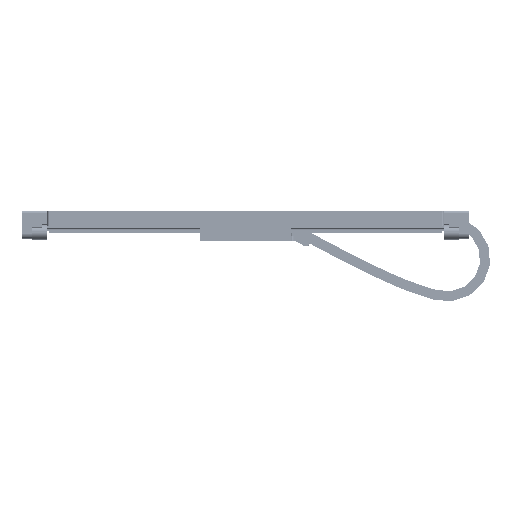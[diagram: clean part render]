
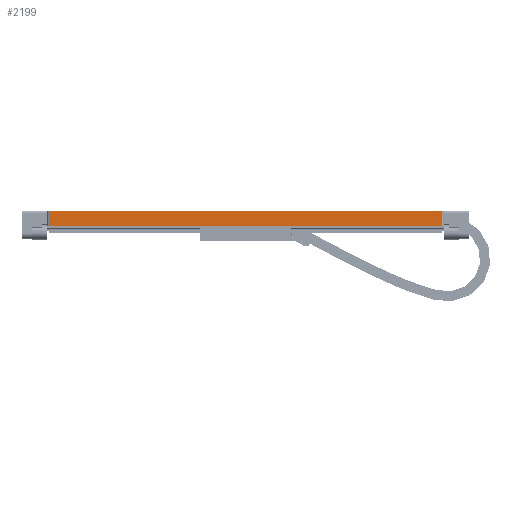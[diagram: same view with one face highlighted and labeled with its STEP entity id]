
A CAD part, left-side view. The second image highlights one B-rep face of the part: STEP entity #2199.
In plain terms, the highlighted planar face has unit normal (-1, 0, 0).
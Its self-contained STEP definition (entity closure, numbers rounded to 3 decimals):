
#158 = DIRECTION ( 'NONE',  ( -1., 0., 0. ) ) ;
#705 = PLANE ( 'NONE',  #51031 ) ;
#1949 = EDGE_CURVE ( 'NONE', #62764, #67970, #23523, .T. ) ;
#2199 = ADVANCED_FACE ( 'NONE', ( #57589 ), #705, .T. ) ;
#4167 = ORIENTED_EDGE ( 'NONE', *, *, #1949, .T. ) ;
#8432 = ORIENTED_EDGE ( 'NONE', *, *, #38864, .F. ) ;
#9822 = DIRECTION ( 'NONE',  ( 0., 0., -1. ) ) ;
#16283 = DIRECTION ( 'NONE',  ( 0., 1., 0. ) ) ;
#19262 = LINE ( 'NONE', #69919, #45819 ) ;
#19612 = CARTESIAN_POINT ( 'NONE',  ( -41., -197.5, -15.5 ) ) ;
#20012 = CARTESIAN_POINT ( 'NONE',  ( -41., -200., 0. ) ) ;
#23523 = LINE ( 'NONE', #76442, #79527 ) ;
#25446 = CARTESIAN_POINT ( 'NONE',  ( -41., 197.5, 0. ) ) ;
#26066 = DIRECTION ( 'NONE',  ( 0., 0., 1. ) ) ;
#30417 = CARTESIAN_POINT ( 'NONE',  ( -41., -200., 0. ) ) ;
#34942 = CARTESIAN_POINT ( 'NONE',  ( -41., -200., -15.5 ) ) ;
#38864 = EDGE_CURVE ( 'NONE', #62764, #61460, #83555, .T. ) ;
#45819 = VECTOR ( 'NONE', #9822, 1000. ) ;
#48723 = CARTESIAN_POINT ( 'NONE',  ( -41., 197.5, -15.5 ) ) ;
#49921 = VERTEX_POINT ( 'NONE', #25446 ) ;
#50248 = DIRECTION ( 'NONE',  ( 0., 1., 0. ) ) ;
#51031 = AXIS2_PLACEMENT_3D ( 'NONE', #20012, #158, #26066 ) ;
#51851 = EDGE_CURVE ( 'NONE', #49921, #61460, #19262, .T. ) ;
#56837 = LINE ( 'NONE', #30417, #57109 ) ;
#57109 = VECTOR ( 'NONE', #50248, 1000. ) ;
#57294 = ORIENTED_EDGE ( 'NONE', *, *, #74753, .T. ) ;
#57589 = FACE_OUTER_BOUND ( 'NONE', #83498, .T. ) ;
#61460 = VERTEX_POINT ( 'NONE', #48723 ) ;
#62764 = VERTEX_POINT ( 'NONE', #19612 ) ;
#67970 = VERTEX_POINT ( 'NONE', #84788 ) ;
#68108 = ORIENTED_EDGE ( 'NONE', *, *, #51851, .T. ) ;
#69919 = CARTESIAN_POINT ( 'NONE',  ( -41., 197.5, -15.5 ) ) ;
#74753 = EDGE_CURVE ( 'NONE', #67970, #49921, #56837, .T. ) ;
#76442 = CARTESIAN_POINT ( 'NONE',  ( -41., -197.5, 0. ) ) ;
#79527 = VECTOR ( 'NONE', #83031, 1000. ) ;
#83031 = DIRECTION ( 'NONE',  ( 0., 0., 1. ) ) ;
#83498 = EDGE_LOOP ( 'NONE', ( #8432, #4167, #57294, #68108 ) ) ;
#83555 = LINE ( 'NONE', #34942, #84133 ) ;
#84133 = VECTOR ( 'NONE', #16283, 1000. ) ;
#84788 = CARTESIAN_POINT ( 'NONE',  ( -41., -197.5, 0. ) ) ;
